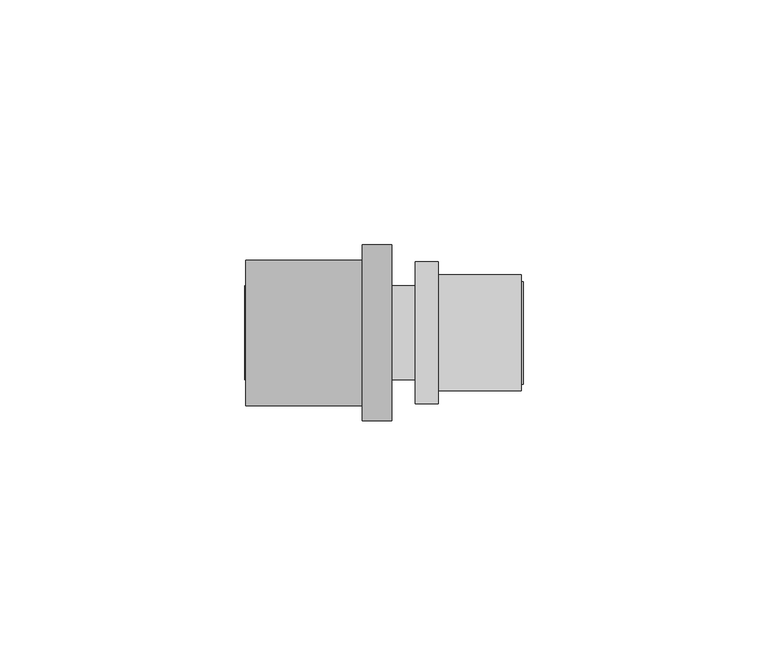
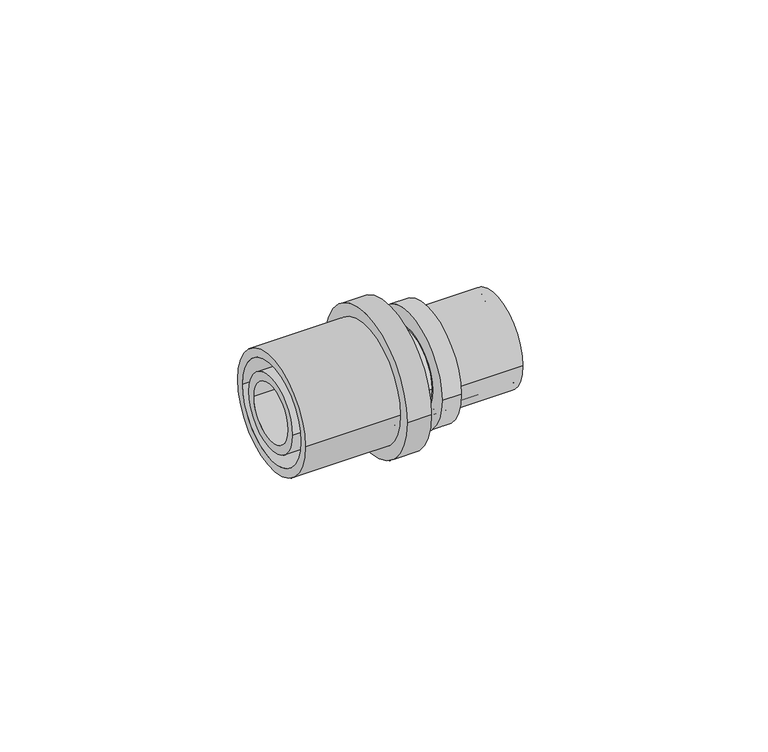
"""IFC4 building model written with IfcOpenShell, lengths in millimetres: pipe fitting geometry, FASTLOC_Coupling reduced EX+ : FSL C EX+ AT."""

from ifc_helpers import new_model, si_unit, frame, origin, place, context, project, spatial, polyline, circle_curve, source, transform, mapped, element, save
from ifc_brep_helpers import plane_surface, cylinder_surface, revolved_surface, advanced_brep


def pipe_fitting_d2a23061(model_context):
    return source(origin(), model_context, "Body", "AdvancedBrep", [
        advanced_brep(
        [(5.7, 14.5, 0.0), (5.7, -14.5, 0.0), (1.0, -14.5, 0.0), (1.0, 14.5, 0.0), (22.7, 11.85, 0.0), (22.7, -11.85, 0.0), (5.7, -11.85, 0.0), (5.7, 11.85, 0.0), (1.0, 10.15, 0.0), (1.0, -10.15, 0.0), (22.7, -10.15, 0.0), (22.7, 10.15, 0.0)],
        [
            (0, 1, circle_curve(frame((5.7, 0.0, 0.0), z_axis=(-1.0, 0.0, 0.0), x_axis=(0.0, -1.0, 0.0)), 14.5)),
            (1, 2),
            (2, 3, circle_curve(frame((1.0, 0.0, 0.0), z_axis=(1.0, 0.0, 0.0), x_axis=(0.0, -1.0, 0.0)), 14.5)),
            (3, 0),
            (4, 5, circle_curve(frame((22.7, 0.0, 0.0), z_axis=(-1.0, 0.0, 0.0), x_axis=(0.0, -1.0, 0.0)), 11.85)),
            (5, 6),
            (6, 7, circle_curve(frame((5.7, 0.0, 0.0), z_axis=(1.0, 0.0, 0.0), x_axis=(0.0, -1.0, 0.0)), 11.85)),
            (7, 4),
            (8, 9, circle_curve(frame((1.0, 0.0, 0.0), z_axis=(-1.0, 0.0, 0.0), x_axis=(0.0, -1.0, 0.0)), 10.15)),
            (9, 10),
            (10, 11, circle_curve(frame((22.7, 0.0, 0.0), z_axis=(1.0, 0.0, 0.0), x_axis=(0.0, -1.0, 0.0)), 10.15)),
            (11, 8),
            (1, 0, circle_curve(frame((5.7, 0.0, 0.0), z_axis=(-1.0, 0.0, 0.0), x_axis=(0.0, 1.0, 0.0)), 14.5)),
            (3, 2, circle_curve(frame((1.0, 0.0, 0.0), z_axis=(1.0, 0.0, 0.0), x_axis=(0.0, 1.0, 0.0)), 14.5)),
            (6, 7, circle_curve(frame((5.7, 0.0, 0.0), z_axis=(-1.0, 0.0, 0.0), x_axis=(0.0, 1.0, 0.0)), 11.85)),
            (5, 4, circle_curve(frame((22.7, 0.0, 0.0), z_axis=(-1.0, 0.0, 0.0), x_axis=(0.0, 1.0, 0.0)), 11.85)),
            (10, 11, circle_curve(frame((22.7, 0.0, 0.0), z_axis=(-1.0, 0.0, 0.0), x_axis=(0.0, 1.0, 0.0)), 10.15)),
            (9, 8, circle_curve(frame((1.0, 0.0, 0.0), z_axis=(-1.0, 0.0, 0.0), x_axis=(0.0, 1.0, 0.0)), 10.15)),
        ],
        [
            cylinder_surface(frame((1.0, 0.0, 0.0), z_axis=(1.0, 0.0, 0.0), x_axis=(0.0, -1.0, 0.0)), 14.5),
            cylinder_surface(frame((1.0, 0.0, 0.0), z_axis=(1.0, 0.0, 0.0), x_axis=(0.0, -1.0, 0.0)), 11.85),
            revolved_surface(polyline([(22.7, -10.15, 0.0), (1.0, -10.15, 0.0)]), (1.0, 0.0, 0.0), (1.0, 0.0, 0.0)),
            cylinder_surface(frame((1.0, 0.0, 0.0), z_axis=(1.0, 0.0, 0.0), x_axis=(0.0, 1.0, 0.0)), 14.5),
            plane_surface(frame((5.7, 0.0, 0.0), z_axis=(1.0, 0.0, 0.0), x_axis=(0.0, 1.0, 0.0))),
            cylinder_surface(frame((1.0, 0.0, 0.0), z_axis=(1.0, 0.0, 0.0), x_axis=(0.0, 1.0, 0.0)), 11.85),
            plane_surface(frame((22.7, 0.0, 0.0), z_axis=(1.0, 0.0, 0.0), x_axis=(0.0, 1.0, 0.0))),
            revolved_surface(polyline([(22.7, 10.15, 0.0), (1.0, 10.15, 0.0)]), (1.0, 0.0, 0.0), (1.0, 0.0, 0.0)),
            plane_surface(frame((1.0, 0.0, 0.0), z_axis=(-1.0, 0.0, 0.0), x_axis=(0.0, 1.0, 0.0))),
        ],
        [
            (0, [[1, 2, 3, 4]]),
            (1, [[5, 6, 7, 8]]),
            (2, [[9, 10, 11, 12]]),
            (3, [[13, -4, 14, -2]]),
            (4, [[-13, -1], [15, -7]]),
            (5, [[16, -8, -15, -6]]),
            (6, [[-16, -5], [17, -11]]),
            (7, [[18, -12, -17, -10]]),
            (8, [[-14, -3], [-18, -9]]),
        ],
    ),
        advanced_brep(
        [(-9.8, -18.0, 0.0), (-9.8, 18.0, 0.0), (-3.8, 18.0, 0.0), (-3.8, -18.0, 0.0), (-33.6, -14.85, 0.0), (-33.6, 14.85, 0.0), (-9.8, 14.85, 0.0), (-9.8, -14.85, 0.0), (-3.8, -12.65, 0.0), (-3.8, 12.65, 0.0), (-33.6, 12.65, 0.0), (-33.6, -12.65, 0.0)],
        [
            (0, 1, circle_curve(frame((-9.8, 0.0, 0.0), z_axis=(1.0, 0.0, 0.0), x_axis=(0.0, 1.0, 0.0)), 18.0)),
            (1, 2),
            (2, 3, circle_curve(frame((-3.8, 0.0, 0.0), z_axis=(-1.0, 0.0, 0.0), x_axis=(0.0, 1.0, 0.0)), 18.0)),
            (3, 0),
            (4, 5, circle_curve(frame((-33.6, 0.0, 0.0), z_axis=(1.0, 0.0, 0.0), x_axis=(0.0, 1.0, 0.0)), 14.85)),
            (5, 6),
            (6, 7, circle_curve(frame((-9.8, 0.0, 0.0), z_axis=(-1.0, 0.0, 0.0), x_axis=(0.0, 1.0, 0.0)), 14.85)),
            (7, 4),
            (8, 9, circle_curve(frame((-3.8, 0.0, 0.0), z_axis=(1.0, 0.0, 0.0), x_axis=(0.0, 1.0, 0.0)), 12.65)),
            (9, 10),
            (10, 11, circle_curve(frame((-33.6, 0.0, 0.0), z_axis=(-1.0, 0.0, 0.0), x_axis=(0.0, 1.0, 0.0)), 12.65)),
            (11, 8),
            (1, 0, circle_curve(frame((-9.8, 0.0, 0.0), z_axis=(1.0, 0.0, 0.0), x_axis=(0.0, -1.0, 0.0)), 18.0)),
            (3, 2, circle_curve(frame((-3.8, 0.0, 0.0), z_axis=(-1.0, 0.0, 0.0), x_axis=(0.0, -1.0, 0.0)), 18.0)),
            (6, 7, circle_curve(frame((-9.8, 0.0, 0.0), z_axis=(1.0, 0.0, 0.0), x_axis=(0.0, -1.0, 0.0)), 14.85)),
            (5, 4, circle_curve(frame((-33.6, 0.0, 0.0), z_axis=(1.0, 0.0, 0.0), x_axis=(0.0, -1.0, 0.0)), 14.85)),
            (10, 11, circle_curve(frame((-33.6, 0.0, 0.0), z_axis=(1.0, 0.0, 0.0), x_axis=(0.0, -1.0, 0.0)), 12.65)),
            (9, 8, circle_curve(frame((-3.8, 0.0, 0.0), z_axis=(1.0, 0.0, 0.0), x_axis=(0.0, -1.0, 0.0)), 12.65)),
        ],
        [
            cylinder_surface(frame((-3.8, 0.0, 0.0), z_axis=(-1.0, 0.0, 0.0), x_axis=(0.0, 1.0, 0.0)), 18.0),
            cylinder_surface(frame((-3.8, 0.0, 0.0), z_axis=(-1.0, 0.0, 0.0), x_axis=(0.0, 1.0, 0.0)), 14.85),
            revolved_surface(polyline([(-33.6, 12.65, 0.0), (-3.8, 12.65, 0.0)]), (-3.8, 0.0, 0.0), (-1.0, 0.0, 0.0)),
            cylinder_surface(frame((-3.8, 0.0, 0.0), z_axis=(-1.0, 0.0, 0.0), x_axis=(0.0, -1.0, 0.0)), 18.0),
            plane_surface(frame((-9.8, 0.0, 0.0), z_axis=(-1.0, 0.0, 0.0), x_axis=(0.0, -1.0, 0.0))),
            cylinder_surface(frame((-3.8, 0.0, 0.0), z_axis=(-1.0, 0.0, 0.0), x_axis=(0.0, -1.0, 0.0)), 14.85),
            plane_surface(frame((-33.6, 0.0, 0.0), z_axis=(-1.0, 0.0, 0.0), x_axis=(0.0, -1.0, 0.0))),
            revolved_surface(polyline([(-33.6, -12.65, 0.0), (-3.8, -12.65, 0.0)]), (-3.8, 0.0, 0.0), (-1.0, 0.0, 0.0)),
            plane_surface(frame((-3.8, 0.0, 0.0), z_axis=(1.0, 0.0, 0.0), x_axis=(0.0, -1.0, 0.0))),
        ],
        [
            (0, [[1, 2, 3, 4]]),
            (1, [[5, 6, 7, 8]]),
            (2, [[9, 10, 11, 12]]),
            (3, [[13, -4, 14, -2]]),
            (4, [[-13, -1], [15, -7]]),
            (5, [[16, -8, -15, -6]]),
            (6, [[-16, -5], [17, -11]]),
            (7, [[18, -12, -17, -10]]),
            (8, [[-14, -3], [-18, -9]]),
        ],
    ),
        advanced_brep(
        [(1.1, 9.6, 0.0), (1.1, -9.6, 0.0), (-7.0, -9.6, 0.0), (-7.0, 9.6, 0.0), (-7.0, 11.1, 0.0), (-7.0, -11.1, 0.0), (-9.8, -11.1, 0.0), (-9.8, 11.1, 0.0), (-9.8, 9.6, 0.0), (-9.8, -9.6, 0.0), (-33.8, -9.6, 0.0), (-33.8, 9.6, 0.0), (-33.8, 7.35, 0.0), (-33.8, -7.35, 0.0), (7.85, -7.35, 0.0), (7.85, 7.35, 0.0), (7.85, 8.45, 0.0), (7.85, -8.45, 0.0), (23.1, -8.45, 0.0), (23.1, 8.45, 0.0), (23.1, 10.45, 0.0), (23.1, -10.45, 0.0), (5.7, -10.45, 0.0), (5.7, 10.45, 0.0), (5.7, 11.5, 0.0), (5.7, -11.5, 0.0), (3.0, -11.5, 0.0), (3.0, 11.5, 0.0), (3.0, 10.45, 0.0), (3.0, -10.45, 0.0), (1.1, -10.45, 0.0), (1.1, 10.45, 0.0)],
        [
            (0, 1, circle_curve(frame((1.1, 0.0, 0.0), z_axis=(-1.0, 0.0, 0.0), x_axis=(0.0, -1.0, 0.0)), 9.6)),
            (1, 2),
            (2, 3, circle_curve(frame((-7.0, 0.0, 0.0), z_axis=(1.0, 0.0, 0.0), x_axis=(0.0, -1.0, 0.0)), 9.6)),
            (3, 0),
            (4, 5, circle_curve(frame((-7.0, 0.0, 0.0), z_axis=(-1.0, 0.0, 0.0), x_axis=(0.0, -1.0, 0.0)), 11.1)),
            (5, 6),
            (6, 7, circle_curve(frame((-9.8, 0.0, 0.0), z_axis=(1.0, 0.0, 0.0), x_axis=(0.0, -1.0, 0.0)), 11.1)),
            (7, 4),
            (8, 9, circle_curve(frame((-9.8, 0.0, 0.0), z_axis=(-1.0, 0.0, 0.0), x_axis=(0.0, -1.0, 0.0)), 9.6)),
            (9, 10),
            (10, 11, circle_curve(frame((-33.8, 0.0, 0.0), z_axis=(1.0, 0.0, 0.0), x_axis=(0.0, -1.0, 0.0)), 9.6)),
            (11, 8),
            (12, 13, circle_curve(frame((-33.8, 0.0, 0.0), z_axis=(-1.0, 0.0, 0.0), x_axis=(0.0, -1.0, 0.0)), 7.35)),
            (13, 14),
            (14, 15, circle_curve(frame((7.85, 0.0, 0.0), z_axis=(1.0, 0.0, 0.0), x_axis=(0.0, -1.0, 0.0)), 7.35)),
            (15, 12),
            (16, 17, circle_curve(frame((7.85, 0.0, 0.0), z_axis=(-1.0, 0.0, 0.0), x_axis=(0.0, -1.0, 0.0)), 8.45)),
            (17, 18),
            (18, 19, circle_curve(frame((23.1, 0.0, 0.0), z_axis=(1.0, 0.0, 0.0), x_axis=(0.0, -1.0, 0.0)), 8.45)),
            (19, 16),
            (20, 21, circle_curve(frame((23.1, 0.0, 0.0), z_axis=(-1.0, 0.0, 0.0), x_axis=(0.0, -1.0, 0.0)), 10.45)),
            (21, 22),
            (22, 23, circle_curve(frame((5.7, 0.0, 0.0), z_axis=(1.0, 0.0, 0.0), x_axis=(0.0, -1.0, 0.0)), 10.45)),
            (23, 20),
            (24, 25, circle_curve(frame((5.7, 0.0, 0.0), z_axis=(-1.0, 0.0, 0.0), x_axis=(0.0, -1.0, 0.0)), 11.5)),
            (25, 26),
            (26, 27, circle_curve(frame((3.0, 0.0, 0.0), z_axis=(1.0, 0.0, 0.0), x_axis=(0.0, -1.0, 0.0)), 11.5)),
            (27, 24),
            (28, 29, circle_curve(frame((3.0, 0.0, 0.0), z_axis=(-1.0, 0.0, 0.0), x_axis=(0.0, -1.0, 0.0)), 10.45)),
            (29, 30),
            (30, 31, circle_curve(frame((1.1, 0.0, 0.0), z_axis=(1.0, 0.0, 0.0), x_axis=(0.0, -1.0, 0.0)), 10.45)),
            (31, 28),
            (1, 0, circle_curve(frame((1.1, 0.0, 0.0), z_axis=(-1.0, 0.0, 0.0), x_axis=(0.0, 1.0, 0.0)), 9.6)),
            (3, 2, circle_curve(frame((-7.0, 0.0, 0.0), z_axis=(1.0, 0.0, 0.0), x_axis=(0.0, 1.0, 0.0)), 9.6)),
            (4, 5, circle_curve(frame((-7.0, 0.0, 0.0), z_axis=(1.0, 0.0, 0.0), x_axis=(0.0, 1.0, 0.0)), 11.1)),
            (7, 6, circle_curve(frame((-9.8, 0.0, 0.0), z_axis=(1.0, 0.0, 0.0), x_axis=(0.0, 1.0, 0.0)), 11.1)),
            (8, 9, circle_curve(frame((-9.8, 0.0, 0.0), z_axis=(1.0, 0.0, 0.0), x_axis=(0.0, 1.0, 0.0)), 9.6)),
            (11, 10, circle_curve(frame((-33.8, 0.0, 0.0), z_axis=(1.0, 0.0, 0.0), x_axis=(0.0, 1.0, 0.0)), 9.6)),
            (12, 13, circle_curve(frame((-33.8, 0.0, 0.0), z_axis=(1.0, 0.0, 0.0), x_axis=(0.0, 1.0, 0.0)), 7.35)),
            (15, 14, circle_curve(frame((7.85, 0.0, 0.0), z_axis=(1.0, 0.0, 0.0), x_axis=(0.0, 1.0, 0.0)), 7.35)),
            (16, 17, circle_curve(frame((7.85, 0.0, 0.0), z_axis=(1.0, 0.0, 0.0), x_axis=(0.0, 1.0, 0.0)), 8.45)),
            (19, 18, circle_curve(frame((23.1, 0.0, 0.0), z_axis=(1.0, 0.0, 0.0), x_axis=(0.0, 1.0, 0.0)), 8.45)),
            (20, 21, circle_curve(frame((23.1, 0.0, 0.0), z_axis=(1.0, 0.0, 0.0), x_axis=(0.0, 1.0, 0.0)), 10.45)),
            (23, 22, circle_curve(frame((5.7, 0.0, 0.0), z_axis=(1.0, 0.0, 0.0), x_axis=(0.0, 1.0, 0.0)), 10.45)),
            (24, 25, circle_curve(frame((5.7, 0.0, 0.0), z_axis=(1.0, 0.0, 0.0), x_axis=(0.0, 1.0, 0.0)), 11.5)),
            (27, 26, circle_curve(frame((3.0, 0.0, 0.0), z_axis=(1.0, 0.0, 0.0), x_axis=(0.0, 1.0, 0.0)), 11.5)),
            (28, 29, circle_curve(frame((3.0, 0.0, 0.0), z_axis=(1.0, 0.0, 0.0), x_axis=(0.0, 1.0, 0.0)), 10.45)),
            (31, 30, circle_curve(frame((1.1, 0.0, 0.0), z_axis=(1.0, 0.0, 0.0), x_axis=(0.0, 1.0, 0.0)), 10.45)),
        ],
        [
            cylinder_surface(frame((0.0, 0.0, 0.0), z_axis=(1.0, 0.0, 0.0), x_axis=(0.0, -1.0, 0.0)), 9.6),
            cylinder_surface(frame((0.0, 0.0, 0.0), z_axis=(1.0, 0.0, 0.0), x_axis=(0.0, -1.0, 0.0)), 11.1),
            revolved_surface(polyline([(7.85, -7.35, 0.0), (-33.8, -7.35, 0.0)]), (0.0, 0.0, 0.0), (1.0, 0.0, 0.0)),
            revolved_surface(polyline([(23.1, -8.45, 0.0), (7.85, -8.45, 0.0)]), (0.0, 0.0, 0.0), (1.0, 0.0, 0.0)),
            cylinder_surface(frame((0.0, 0.0, 0.0), z_axis=(1.0, 0.0, 0.0), x_axis=(0.0, -1.0, 0.0)), 10.45),
            cylinder_surface(frame((0.0, 0.0, 0.0), z_axis=(1.0, 0.0, 0.0), x_axis=(0.0, -1.0, 0.0)), 11.5),
            cylinder_surface(frame((0.0, 0.0, 0.0), z_axis=(1.0, 0.0, 0.0), x_axis=(0.0, 1.0, 0.0)), 9.6),
            plane_surface(frame((-7.0, 0.0, 0.0), z_axis=(1.0, 0.0, 0.0), x_axis=(0.0, 1.0, 0.0))),
            cylinder_surface(frame((0.0, 0.0, 0.0), z_axis=(1.0, 0.0, 0.0), x_axis=(0.0, 1.0, 0.0)), 11.1),
            plane_surface(frame((-9.8, 0.0, 0.0), z_axis=(-1.0, 0.0, 0.0), x_axis=(0.0, 1.0, 0.0))),
            plane_surface(frame((-33.8, 0.0, 0.0), z_axis=(-1.0, 0.0, 0.0), x_axis=(0.0, 1.0, 0.0))),
            revolved_surface(polyline([(7.85, 7.35, 0.0), (-33.8, 7.35, 0.0)]), (0.0, 0.0, 0.0), (1.0, 0.0, 0.0)),
            plane_surface(frame((7.85, 0.0, 0.0), z_axis=(1.0, 0.0, 0.0), x_axis=(0.0, 1.0, 0.0))),
            revolved_surface(polyline([(23.1, 8.45, 0.0), (7.85, 8.45, 0.0)]), (0.0, 0.0, 0.0), (1.0, 0.0, 0.0)),
            plane_surface(frame((23.1, 0.0, 0.0), z_axis=(1.0, 0.0, 0.0), x_axis=(0.0, 1.0, 0.0))),
            cylinder_surface(frame((0.0, 0.0, 0.0), z_axis=(1.0, 0.0, 0.0), x_axis=(0.0, 1.0, 0.0)), 10.45),
            plane_surface(frame((5.7, 0.0, 0.0), z_axis=(1.0, 0.0, 0.0), x_axis=(0.0, 1.0, 0.0))),
            cylinder_surface(frame((0.0, 0.0, 0.0), z_axis=(1.0, 0.0, 0.0), x_axis=(0.0, 1.0, 0.0)), 11.5),
            plane_surface(frame((3.0, 0.0, 0.0), z_axis=(-1.0, 0.0, 0.0), x_axis=(0.0, 1.0, 0.0))),
            plane_surface(frame((1.1, 0.0, 0.0), z_axis=(-1.0, 0.0, 0.0), x_axis=(0.0, 1.0, 0.0))),
        ],
        [
            (0, [[1, 2, 3, 4]]),
            (1, [[5, 6, 7, 8]]),
            (0, [[9, 10, 11, 12]]),
            (2, [[13, 14, 15, 16]]),
            (3, [[17, 18, 19, 20]]),
            (4, [[21, 22, 23, 24]]),
            (5, [[25, 26, 27, 28]]),
            (4, [[29, 30, 31, 32]]),
            (6, [[33, -4, 34, -2]]),
            (7, [[35, -5], [-34, -3]]),
            (8, [[-35, -8, 36, -6]]),
            (9, [[-36, -7], [37, -9]]),
            (6, [[-37, -12, 38, -10]]),
            (10, [[-38, -11], [39, -13]]),
            (11, [[-39, -16, 40, -14]]),
            (12, [[41, -17], [-40, -15]]),
            (13, [[-41, -20, 42, -18]]),
            (14, [[43, -21], [-42, -19]]),
            (15, [[-43, -24, 44, -22]]),
            (16, [[45, -25], [-44, -23]]),
            (17, [[-45, -28, 46, -26]]),
            (18, [[-46, -27], [47, -29]]),
            (15, [[-47, -32, 48, -30]]),
            (19, [[-48, -31], [-33, -1]]),
        ],
    ),
    ])


if __name__ == "__main__":
    model = new_model("IFC4")
    model_context = context("Model", 3, world=origin())
    ifc_project = project(units=[si_unit("LENGTHUNIT", "METRE", prefix="MILLI")], contexts=[model_context])
    site = spatial("IfcSite", under=ifc_project)
    building = spatial("IfcBuilding", under=site)
    placement = place(None, origin())
    pipe_fitting_shape = pipe_fitting_d2a23061(model_context)
    element("IfcPipeFitting", 1, ObjectType="FASTLOC_Coupling reduced EX+ : FSL C EX+ AT", at=placement, inside=building, context=model_context, shape_type="MappedRepresentation", body=[
        mapped(pipe_fitting_shape, transform((0.0, 0.0, 0.0), x_axis=(1.0, 0.0, 0.0), y_axis=(0.0, 1.0, 0.0), z_axis=(0.0, 0.0, 1.0))),
    ])
    save(model, "model.ifc")
